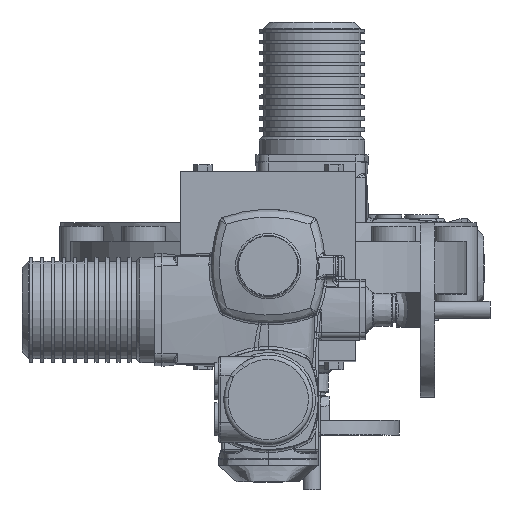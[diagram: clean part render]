
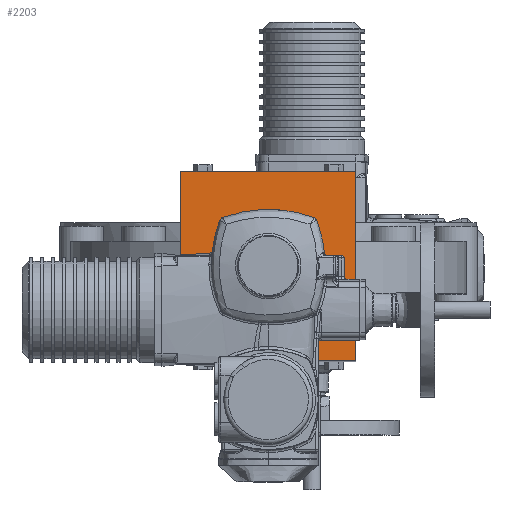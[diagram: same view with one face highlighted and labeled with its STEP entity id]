
A CAD part, top view. The second image highlights one B-rep face of the part: STEP entity #2203.
In plain terms, the highlighted planar face has unit normal (0, 0, 1).
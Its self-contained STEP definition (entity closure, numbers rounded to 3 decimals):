
#2203 = ADVANCED_FACE( '', ( #5385, #5386 ), #5387, .F. );
#5385 = FACE_BOUND( '', #12781, .T. );
#5386 = FACE_OUTER_BOUND( '', #12782, .T. );
#5387 = PLANE( '', #12783 );
#12781 = EDGE_LOOP( '', ( #31099 ) );
#12782 = EDGE_LOOP( '', ( #31100, #31101, #31102, #31103 ) );
#12783 = AXIS2_PLACEMENT_3D( '', #31104, #31105, #31106 );
#31099 = ORIENTED_EDGE( '', *, *, #42868, .T. );
#31100 = ORIENTED_EDGE( '', *, *, #42869, .T. );
#31101 = ORIENTED_EDGE( '', *, *, #42373, .F. );
#31102 = ORIENTED_EDGE( '', *, *, #41706, .F. );
#31103 = ORIENTED_EDGE( '', *, *, #42870, .F. );
#31104 = CARTESIAN_POINT( '', ( 100., -99.25, 1336. ) );
#31105 = DIRECTION( '', ( 0., 0., -1. ) );
#31106 = DIRECTION( '', ( -1., 0., 0. ) );
#41706 = EDGE_CURVE( '', #46727, #46729, #46730, .T. );
#42373 = EDGE_CURVE( '', #46729, #47834, #47835, .T. );
#42868 = EDGE_CURVE( '', #48620, #48620, #48621, .T. );
#42869 = EDGE_CURVE( '', #48622, #47834, #48623, .T. );
#42870 = EDGE_CURVE( '', #48622, #46727, #48624, .T. );
#46727 = VERTEX_POINT( '', #57221 );
#46729 = VERTEX_POINT( '', #57224 );
#46730 = LINE( '', #57225, #57226 );
#47834 = VERTEX_POINT( '', #61303 );
#47835 = LINE( '', #61304, #61305 );
#48620 = VERTEX_POINT( '', #64263 );
#48621 = CIRCLE( '', #64264, 24. );
#48622 = VERTEX_POINT( '', #64265 );
#48623 = LINE( '', #64266, #64267 );
#48624 = LINE( '', #64268, #64269 );
#57221 = CARTESIAN_POINT( '', ( 100., 108.25, 1336. ) );
#57224 = CARTESIAN_POINT( '', ( 100., -108.25, 1336. ) );
#57225 = CARTESIAN_POINT( '', ( 100., -99.25, 1336. ) );
#57226 = VECTOR( '', #79749, 1000. );
#61303 = CARTESIAN_POINT( '', ( -100., -108.25, 1336. ) );
#61304 = CARTESIAN_POINT( '', ( 100., -108.25, 1336. ) );
#61305 = VECTOR( '', #80299, 1000. );
#64263 = CARTESIAN_POINT( '', ( -24., 0., 1336. ) );
#64264 = AXIS2_PLACEMENT_3D( '', #80712, #80713, #80714 );
#64265 = CARTESIAN_POINT( '', ( -100., 108.25, 1336. ) );
#64266 = CARTESIAN_POINT( '', ( -100., -99.25, 1336. ) );
#64267 = VECTOR( '', #80715, 1000. );
#64268 = CARTESIAN_POINT( '', ( 100., 108.25, 1336. ) );
#64269 = VECTOR( '', #80716, 1000. );
#79749 = DIRECTION( '', ( 0., -1., 0. ) );
#80299 = DIRECTION( '', ( -1., 0., 0. ) );
#80712 = CARTESIAN_POINT( '', ( 0., 0., 1336. ) );
#80713 = DIRECTION( '', ( 0., 0., -1. ) );
#80714 = DIRECTION( '', ( -1., 0., 0. ) );
#80715 = DIRECTION( '', ( 0., -1., 0. ) );
#80716 = DIRECTION( '', ( 1., 0., 0. ) );
